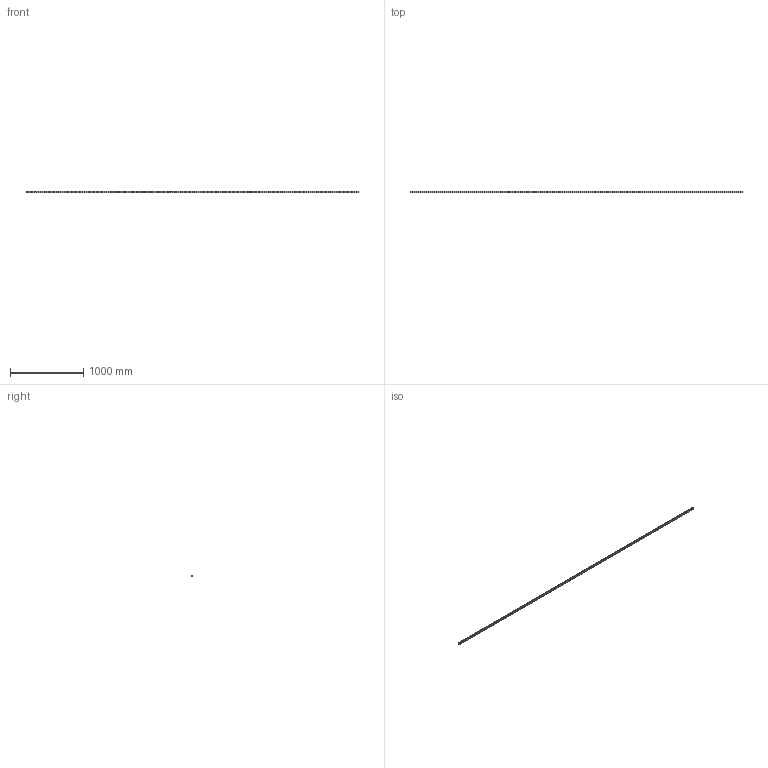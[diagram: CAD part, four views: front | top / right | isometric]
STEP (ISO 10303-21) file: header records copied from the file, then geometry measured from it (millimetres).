
FILE_DESCRIPTION(('CATIA V5 STEP Exchange'),'2;1');
FILE_NAME('C:\Users\14044\Desktop\HSV_3DCAD\HSV25C1SS+4540L\HSV25_RAIL_4540L.stp','2015-11-25T01:19:15+00:00',('none'),('none'),'Version 5-6 Release 2012','CATIA V5 STEP AP203','none');
FILE_SCHEMA(('CONFIG_CONTROL_DESIGN'));
Length unit declared in the file: millimetre
Products named in the file (1): HSV25_RAIL_4540L
Bounding box: 4540 x 22 x 23 mm (x, y, z)
Volume: 1879253.7 mm3; surface area: 456003.4 mm2
Topology: 1 solids, 1 shells, 406 faces, 984 edges, 887 vertices
Faces by surface type: cylinder 308, plane 98
Entity records: 11026 total; most frequent: CARTESIAN_POINT 2046, ORIENTED_EDGE 1968, DIRECTION 1332, EDGE_CURVE 984, AXIS2_PLACEMENT_3D 791, VERTEX_POINT 656, EDGE_LOOP 634, CIRCLE 616
